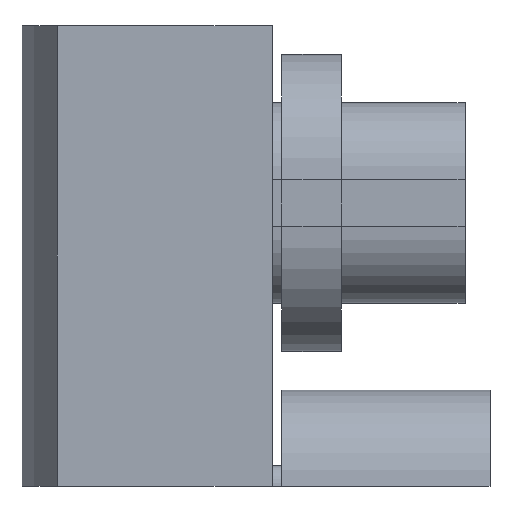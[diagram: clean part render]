
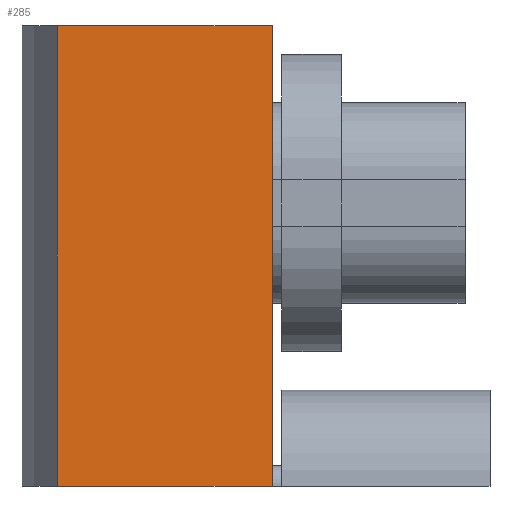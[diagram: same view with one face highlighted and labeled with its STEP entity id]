
A CAD part, left-side view. The second image highlights one B-rep face of the part: STEP entity #285.
In plain terms, the highlighted planar face has unit normal (-1, 0, 0).
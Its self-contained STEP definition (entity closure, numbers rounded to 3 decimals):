
#285=ADVANCED_FACE('',(#437),#438,.T.);
#437=FACE_OUTER_BOUND('',#711,.T.);
#438=PLANE('',#712);
#711=EDGE_LOOP('',(#1000,#1001,#1002,#1003));
#712=AXIS2_PLACEMENT_3D('',#1004,#1005,#1006);
#1000=ORIENTED_EDGE('',*,*,#1881,.T.);
#1001=ORIENTED_EDGE('',*,*,#1874,.F.);
#1002=ORIENTED_EDGE('',*,*,#1882,.F.);
#1003=ORIENTED_EDGE('',*,*,#1879,.T.);
#1004=CARTESIAN_POINT('',(-80.0,88.157,0.0));
#1005=DIRECTION('',(-1.0,-0.0,0.0));
#1006=DIRECTION('',(0.0,-1.0,-0.0));
#1874=EDGE_CURVE('',#2143,#2138,#2145,.T.);
#1879=EDGE_CURVE('',#2153,#2151,#2154,.T.);
#1881=EDGE_CURVE('',#2151,#2138,#2156,.T.);
#1882=EDGE_CURVE('',#2153,#2143,#2157,.T.);
#2138=VERTEX_POINT('',#2548);
#2143=VERTEX_POINT('',#2554);
#2145=LINE('',#2556,#2557);
#2151=VERTEX_POINT('',#2566);
#2153=VERTEX_POINT('',#2569);
#2154=LINE('',#2570,#2571);
#2156=LINE('',#2574,#2575);
#2157=LINE('',#2576,#2577);
#2548=CARTESIAN_POINT('',(-80.0,116.114,120.0));
#2554=CARTESIAN_POINT('',(-80.0,116.114,0.0));
#2556=CARTESIAN_POINT('',(-80.0,116.114,0.0));
#2557=VECTOR('',#3173,1.0);
#2566=CARTESIAN_POINT('',(-80.0,60.2,120.0));
#2569=CARTESIAN_POINT('',(-80.0,60.2,0.0));
#2570=CARTESIAN_POINT('',(-80.0,60.2,0.0));
#2571=VECTOR('',#3178,1.0);
#2574=CARTESIAN_POINT('',(-80.0,60.2,120.0));
#2575=VECTOR('',#3180,1.0);
#2576=CARTESIAN_POINT('',(-80.0,60.2,0.0));
#2577=VECTOR('',#3181,1.0);
#3173=DIRECTION('',(0.0,0.0,1.0));
#3178=DIRECTION('',(0.0,0.0,1.0));
#3180=DIRECTION('',(0.0,1.0,0.0));
#3181=DIRECTION('',(0.0,1.0,0.0));
